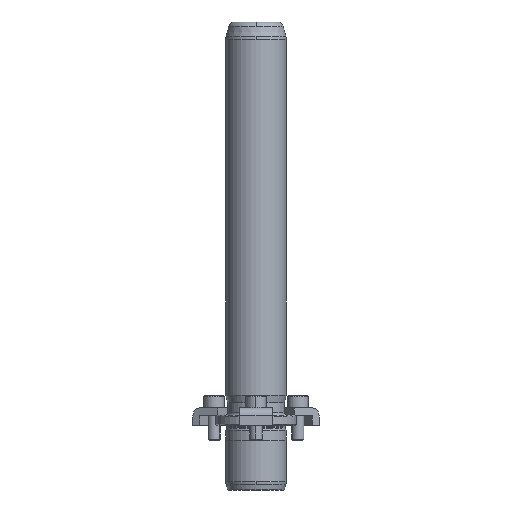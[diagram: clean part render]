
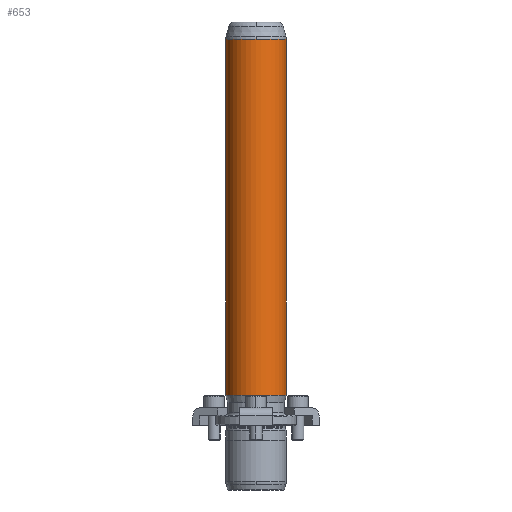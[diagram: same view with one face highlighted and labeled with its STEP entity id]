
A CAD part, front view. The second image highlights one B-rep face of the part: STEP entity #653.
In plain terms, the highlighted cylindrical face has radius 15 mm (diameter 30 mm), a partial arc.
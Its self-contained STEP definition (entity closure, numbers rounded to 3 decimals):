
#566=CARTESIAN_POINT('',(0.0,-15.,191.342));
#567=VERTEX_POINT('',#566);
#594=CARTESIAN_POINT('',(-15.0,0.,191.342));
#595=VERTEX_POINT('',#594);
#603=CARTESIAN_POINT('',(0.0,0.,191.342));
#604=DIRECTION('',(0.0,0.0,1.0));
#605=DIRECTION('',(1.0,0.0,0.0));
#606=AXIS2_PLACEMENT_3D('',#603,#604,#605);
#607=CIRCLE('',#606,15.);
#608=EDGE_CURVE('',#595,#567,#607,.T.);
#613=CARTESIAN_POINT('',(0.0,0.,103.171));
#614=DIRECTION('',(0.0,0.,1.0));
#615=DIRECTION('',(1.0,0.0,0.0));
#616=AXIS2_PLACEMENT_3D('',#613,#614,#615);
#617=CYLINDRICAL_SURFACE('',#616,15.0);
#618=CARTESIAN_POINT('',(15.,0.,191.342));
#619=VERTEX_POINT('',#618);
#620=CARTESIAN_POINT('',(15.0,0.,15.0));
#621=VERTEX_POINT('',#620);
#622=CARTESIAN_POINT('',(15.,0.,191.342));
#623=DIRECTION('',(0.0,0.0,-1.0));
#624=VECTOR('',#623,176.342);
#625=LINE('',#622,#624);
#626=EDGE_CURVE('',#619,#621,#625,.T.);
#627=ORIENTED_EDGE('',*,*,#626,.F.);
#628=CARTESIAN_POINT('',(0.0,0.,191.342));
#629=DIRECTION('',(0.0,0.0,1.0));
#630=DIRECTION('',(1.0,0.0,0.0));
#631=AXIS2_PLACEMENT_3D('',#628,#629,#630);
#632=CIRCLE('',#631,15.);
#633=EDGE_CURVE('',#567,#619,#632,.T.);
#634=ORIENTED_EDGE('',*,*,#633,.F.);
#635=ORIENTED_EDGE('',*,*,#608,.F.);
#636=CARTESIAN_POINT('',(-15.0,0.,15.0));
#637=VERTEX_POINT('',#636);
#638=CARTESIAN_POINT('',(-15.0,0.,191.342));
#639=DIRECTION('',(0.0,0.0,-1.0));
#640=VECTOR('',#639,176.342);
#641=LINE('',#638,#640);
#642=EDGE_CURVE('',#595,#637,#641,.T.);
#643=ORIENTED_EDGE('',*,*,#642,.T.);
#644=CARTESIAN_POINT('',(0.0,0.,15.0));
#645=DIRECTION('',(0.0,0.0,1.0));
#646=DIRECTION('',(1.0,0.0,0.0));
#647=AXIS2_PLACEMENT_3D('',#644,#645,#646);
#648=CIRCLE('',#647,15.0);
#649=EDGE_CURVE('',#637,#621,#648,.T.);
#650=ORIENTED_EDGE('',*,*,#649,.T.);
#651=EDGE_LOOP('',(#627,#634,#635,#643,#650));
#652=FACE_OUTER_BOUND('',#651,.T.);
#653=ADVANCED_FACE('',(#652),#617,.T.);
